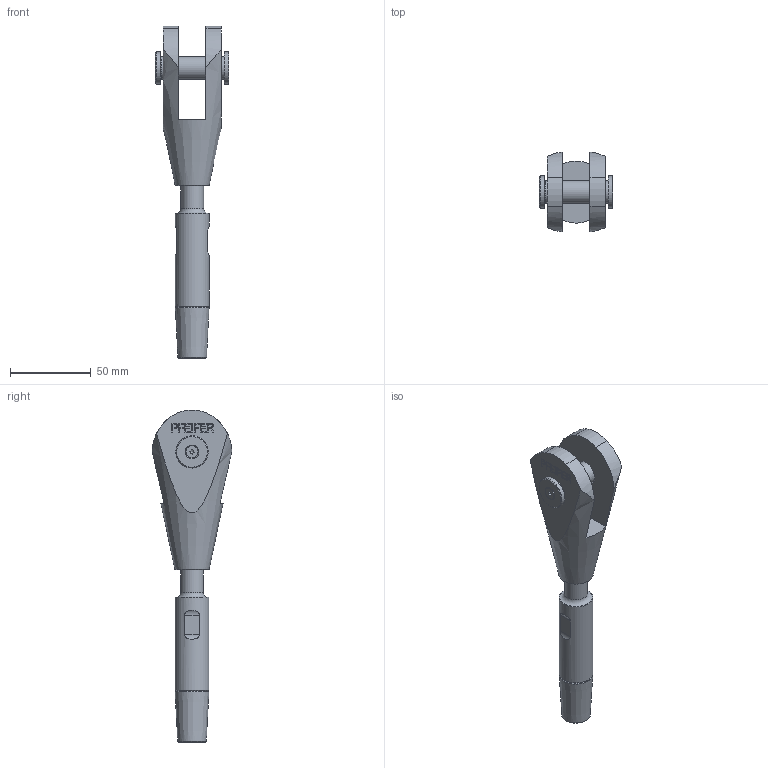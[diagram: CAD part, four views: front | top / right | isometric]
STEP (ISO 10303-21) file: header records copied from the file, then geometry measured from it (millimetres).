
FILE_DESCRIPTION(/* description */ (''),/* implementation_level */ '2;1');
FILE_NAME(/* name */ 'G:\Engineering\700 CAD\Internet-PX-1-step-igs-dxf\520-GAK-ADA-Arbeitsdateien\520-014-GAK-ADA.stp',/* time_stamp */ '2020-07-03T13:04:21+02:00',/* author */ ('schwarz'),/* organization */ (''),/* preprocessor_version */ 'ST-DEVELOPER v16.1',/* originating_system */ 'Autodesk Inventor 2016',/* authorisation */ '');
FILE_SCHEMA (('AUTOMOTIVE_DESIGN { 1 0 10303 214 3 1 1 }'));
Length unit declared in the file: centimetre
Products named in the file (1): 520-014-GAK-ADA-Kunde
Bounding box: 45.78 x 49.18 x 205.42 mm (x, y, z)
Volume: 101214.8 mm3; surface area: 27634.9 mm2
Topology: 2 solids, 3 shells, 198 faces, 509 edges, 338 vertices
Faces by surface type: plane 140, cylinder 22, bspline 21, cone 14, torus 1
Full cylindrical faces by diameter (mm): 3.242 x1, 4 x1, 4.5 x1, 7.53 x1, 14 x2, 14.8 x1, 16 x2, 20 x2, 21 x1
Entity records: 6152 total; most frequent: CARTESIAN_POINT 1404, ORIENTED_EDGE 944, DIRECTION 812, EDGE_CURVE 472, LINE 356, VECTOR 356, VERTEX_POINT 328, EDGE_LOOP 250
